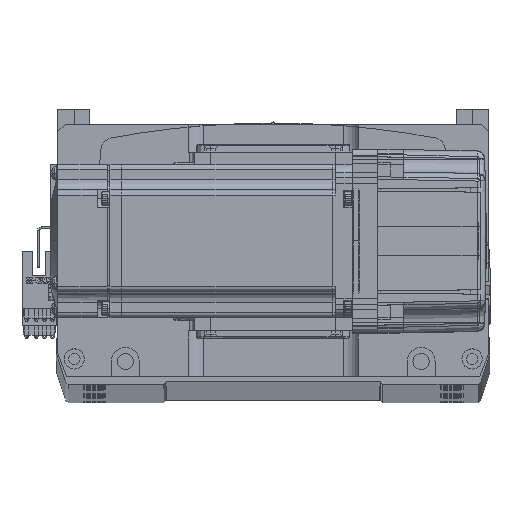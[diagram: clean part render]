
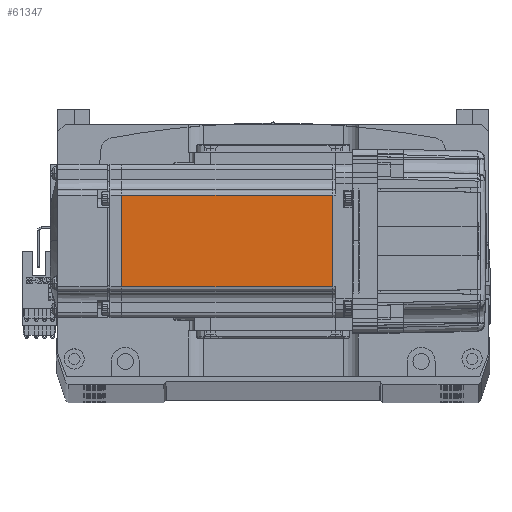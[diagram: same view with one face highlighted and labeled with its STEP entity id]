
A CAD part, top view. The second image highlights one B-rep face of the part: STEP entity #61347.
In plain terms, the highlighted planar face has unit normal (0, 0, 1).
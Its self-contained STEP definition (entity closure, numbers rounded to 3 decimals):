
#12559 = CARTESIAN_POINT ( 'NONE',  ( -7.75, 18., 30. ) ) ;
#14838 = DIRECTION ( 'NONE',  ( 0., -1., 0. ) ) ;
#15488 = DIRECTION ( 'NONE',  ( 0., 0., 1. ) ) ;
#16128 = VECTOR ( 'NONE', #71672, 1000. ) ;
#22440 = VERTEX_POINT ( 'NONE', #41676 ) ;
#23052 = LINE ( 'NONE', #38373, #63205 ) ;
#27128 = ORIENTED_EDGE ( 'NONE', *, *, #44491, .F. ) ;
#28728 = EDGE_CURVE ( 'NONE', #67269, #22440, #33473, .T. ) ;
#32231 = CARTESIAN_POINT ( 'NONE',  ( -7.75, 0., 30. ) ) ;
#32242 = DIRECTION ( 'NONE',  ( -1., 0., 0. ) ) ;
#33473 = LINE ( 'NONE', #59639, #60806 ) ;
#35140 = LINE ( 'NONE', #32231, #60604 ) ;
#38062 = LINE ( 'NONE', #41854, #16128 ) ;
#38373 = CARTESIAN_POINT ( 'NONE',  ( -6.5, -18., 30. ) ) ;
#40164 = CARTESIAN_POINT ( 'NONE',  ( -7.75, -18., 30. ) ) ;
#40203 = ORIENTED_EDGE ( 'NONE', *, *, #28728, .T. ) ;
#41676 = CARTESIAN_POINT ( 'NONE',  ( -90.45, 18., 30. ) ) ;
#41854 = CARTESIAN_POINT ( 'NONE',  ( -90.45, 0., 30. ) ) ;
#44402 = PLANE ( 'NONE',  #68268 ) ;
#44491 = EDGE_CURVE ( 'NONE', #52251, #65281, #23052, .T. ) ;
#49575 = EDGE_CURVE ( 'NONE', #67269, #52251, #35140, .T. ) ;
#50496 = CARTESIAN_POINT ( 'NONE',  ( -6.5, -25., 30. ) ) ;
#52251 = VERTEX_POINT ( 'NONE', #40164 ) ;
#53507 = CARTESIAN_POINT ( 'NONE',  ( -90.45, -18., 30. ) ) ;
#54231 = FACE_OUTER_BOUND ( 'NONE', #63713, .T. ) ;
#55513 = ORIENTED_EDGE ( 'NONE', *, *, #49575, .F. ) ;
#58837 = EDGE_CURVE ( 'NONE', #22440, #65281, #38062, .T. ) ;
#59639 = CARTESIAN_POINT ( 'NONE',  ( -6.5, 18., 30. ) ) ;
#59899 = ORIENTED_EDGE ( 'NONE', *, *, #58837, .T. ) ;
#60604 = VECTOR ( 'NONE', #14838, 1000. ) ;
#60806 = VECTOR ( 'NONE', #71219, 1000. ) ;
#61347 = ADVANCED_FACE ( 'NONE', ( #54231 ), #44402, .T. ) ;
#63205 = VECTOR ( 'NONE', #32242, 1000. ) ;
#63713 = EDGE_LOOP ( 'NONE', ( #55513, #40203, #59899, #27128 ) ) ;
#65281 = VERTEX_POINT ( 'NONE', #53507 ) ;
#67269 = VERTEX_POINT ( 'NONE', #12559 ) ;
#67294 = DIRECTION ( 'NONE',  ( 1., 0., 0. ) ) ;
#68268 = AXIS2_PLACEMENT_3D ( 'NONE', #50496, #15488, #67294 ) ;
#71219 = DIRECTION ( 'NONE',  ( -1., 0., 0. ) ) ;
#71672 = DIRECTION ( 'NONE',  ( 0., -1., 0. ) ) ;
